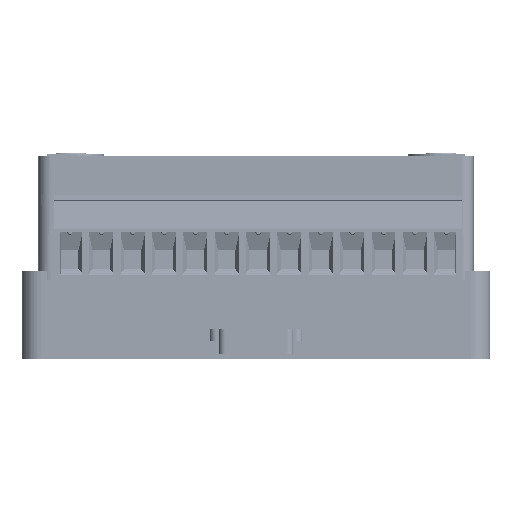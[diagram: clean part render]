
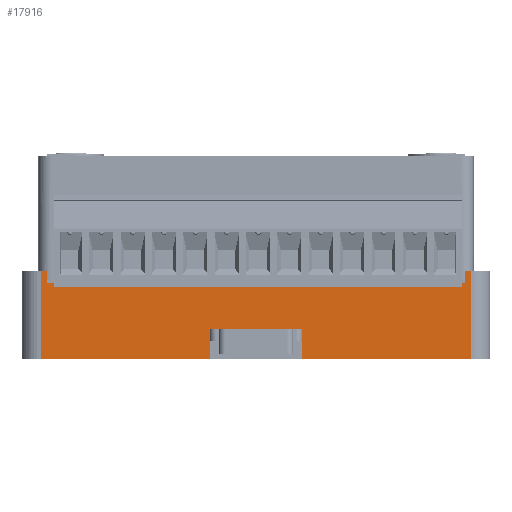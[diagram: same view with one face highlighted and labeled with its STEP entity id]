
A CAD part, front view. The second image highlights one B-rep face of the part: STEP entity #17916.
In plain terms, the highlighted planar face has unit normal (0, -1, 0).
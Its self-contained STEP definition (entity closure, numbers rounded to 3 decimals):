
#17916=ADVANCED_FACE('',(#90174),#90176,.F.);
#90174=FACE_BOUND('',#90175,.T.);
#90175=EDGE_LOOP('',(#143686,#143687,#143688,#143689,#143690,#143691,#143692,#143693,
#143694,#143695,#143696,#143697,#143698,#143699,#143700,#143701));
#90176=PLANE('',#90177);
#90177=AXIS2_PLACEMENT_3D('',#90178,#90179,#90180);
#90178=CARTESIAN_POINT('',(-37.9,-51.95,14.4));
#90179=DIRECTION('',(0.,1.,0.));
#90180=DIRECTION('',(0.,0.,1.));
#143686=ORIENTED_EDGE('',*,*,#199788,.F.);
#143687=ORIENTED_EDGE('',*,*,#199789,.F.);
#143688=ORIENTED_EDGE('',*,*,#199790,.T.);
#143689=ORIENTED_EDGE('',*,*,#199791,.T.);
#143690=ORIENTED_EDGE('',*,*,#199792,.T.);
#143691=ORIENTED_EDGE('',*,*,#199602,.F.);
#143692=ORIENTED_EDGE('',*,*,#199634,.T.);
#143693=ORIENTED_EDGE('',*,*,#199632,.F.);
#143694=ORIENTED_EDGE('',*,*,#199631,.T.);
#143695=ORIENTED_EDGE('',*,*,#199618,.F.);
#143696=ORIENTED_EDGE('',*,*,#199793,.T.);
#143697=ORIENTED_EDGE('',*,*,#199794,.T.);
#143698=ORIENTED_EDGE('',*,*,#199795,.F.);
#143699=ORIENTED_EDGE('',*,*,#199796,.F.);
#143700=ORIENTED_EDGE('',*,*,#199797,.F.);
#143701=ORIENTED_EDGE('',*,*,#199638,.F.);
#199602=EDGE_CURVE('',#226562,#226564,#226565,.T.);
#199618=EDGE_CURVE('',#226591,#226583,#226593,.T.);
#199631=EDGE_CURVE('',#226611,#226583,#226613,.T.);
#199632=EDGE_CURVE('',#226611,#226614,#226615,.T.);
#199634=EDGE_CURVE('',#226562,#226614,#226617,.T.);
#199638=EDGE_CURVE('',#226621,#226623,#226624,.T.);
#199788=EDGE_CURVE('',#226858,#226621,#226859,.T.);
#199789=EDGE_CURVE('',#226860,#226858,#226861,.T.);
#199790=EDGE_CURVE('',#226860,#226862,#226863,.T.);
#199791=EDGE_CURVE('',#226862,#226864,#226865,.T.);
#199792=EDGE_CURVE('',#226864,#226564,#226866,.T.);
#199793=EDGE_CURVE('',#226591,#226867,#226868,.T.);
#199794=EDGE_CURVE('',#226867,#226869,#226870,.T.);
#199795=EDGE_CURVE('',#226871,#226869,#226872,.T.);
#199796=EDGE_CURVE('',#226873,#226871,#226874,.T.);
#199797=EDGE_CURVE('',#226623,#226873,#226875,.T.);
#226562=VERTEX_POINT('',#288930);
#226564=VERTEX_POINT('',#288934);
#226565=LINE('',#288935,#288936);
#226583=VERTEX_POINT('',#288977);
#226591=VERTEX_POINT('',#288994);
#226593=LINE('',#288999,#289000);
#226611=VERTEX_POINT('',#289041);
#226613=LINE('',#289045,#289046);
#226614=VERTEX_POINT('',#289048);
#226615=LINE('',#289049,#289050);
#226617=LINE('',#289055,#289056);
#226621=VERTEX_POINT('',#289065);
#226623=VERTEX_POINT('',#289069);
#226624=LINE('',#289070,#289071);
#226858=VERTEX_POINT('',#289625);
#226859=LINE('',#289626,#289627);
#226860=VERTEX_POINT('',#289629);
#226861=LINE('',#289630,#289631);
#226862=VERTEX_POINT('',#289633);
#226863=LINE('',#289634,#289635);
#226864=VERTEX_POINT('',#289637);
#226865=LINE('',#289638,#289639);
#226866=LINE('',#289641,#289642);
#226867=VERTEX_POINT('',#289644);
#226868=LINE('',#289645,#289646);
#226869=VERTEX_POINT('',#289648);
#226870=LINE('',#289649,#289650);
#226871=VERTEX_POINT('',#289652);
#226872=LINE('',#289653,#289654);
#226873=VERTEX_POINT('',#289656);
#226874=LINE('',#289657,#289658);
#226875=LINE('',#289660,#289661);
#288930=CARTESIAN_POINT('',(33.85,-51.95,14.4));
#288934=CARTESIAN_POINT('',(34.9,-51.95,14.4));
#288935=CARTESIAN_POINT('',(33.85,-51.95,14.4));
#288936=VECTOR('',#288937,1.);
#288937=DIRECTION('',(1.,0.,0.));
#288977=CARTESIAN_POINT('',(-33.85,-51.95,14.4));
#288994=CARTESIAN_POINT('',(-34.9,-51.95,14.4));
#288999=CARTESIAN_POINT('',(-34.9,-51.95,14.4));
#289000=VECTOR('',#289001,1.);
#289001=DIRECTION('',(1.,0.,0.));
#289041=CARTESIAN_POINT('',(-33.85,-51.95,12.4));
#289045=CARTESIAN_POINT('',(-33.85,-51.95,12.4));
#289046=VECTOR('',#289047,1.);
#289047=DIRECTION('',(0.,0.,1.));
#289048=CARTESIAN_POINT('',(33.85,-51.95,12.4));
#289049=CARTESIAN_POINT('',(-33.85,-51.95,12.4));
#289050=VECTOR('',#289051,1.);
#289051=DIRECTION('',(1.,0.,0.));
#289055=CARTESIAN_POINT('',(33.85,-51.95,14.4));
#289056=VECTOR('',#289057,1.);
#289057=DIRECTION('',(0.,0.,-1.));
#289065=CARTESIAN_POINT('',(4.,-51.95,5.));
#289069=CARTESIAN_POINT('',(-4.,-51.95,5.));
#289070=CARTESIAN_POINT('',(4.,-51.95,5.));
#289071=VECTOR('',#289072,1.);
#289072=DIRECTION('',(-1.,0.,0.));
#289625=CARTESIAN_POINT('',(6.936,-51.95,5.));
#289626=CARTESIAN_POINT('',(6.936,-51.95,5.));
#289627=VECTOR('',#289628,1.);
#289628=DIRECTION('',(-1.,0.,0.));
#289629=CARTESIAN_POINT('',(7.5,-51.95,5.));
#289630=CARTESIAN_POINT('',(7.5,-51.95,5.));
#289631=VECTOR('',#289632,1.);
#289632=DIRECTION('',(-1.,0.,0.));
#289633=CARTESIAN_POINT('',(7.5,-51.95,0.));
#289634=CARTESIAN_POINT('',(7.5,-51.95,5.));
#289635=VECTOR('',#289636,1.);
#289636=DIRECTION('',(0.,0.,-1.));
#289637=CARTESIAN_POINT('',(34.9,-51.95,0.));
#289638=CARTESIAN_POINT('',(7.5,-51.95,0.));
#289639=VECTOR('',#289640,1.);
#289640=DIRECTION('',(1.,0.,0.));
#289641=CARTESIAN_POINT('',(34.9,-51.95,0.));
#289642=VECTOR('',#289643,1.);
#289643=DIRECTION('',(0.,0.,1.));
#289644=CARTESIAN_POINT('',(-34.9,-51.95,0.));
#289645=CARTESIAN_POINT('',(-34.9,-51.95,14.4));
#289646=VECTOR('',#289647,1.);
#289647=DIRECTION('',(0.,0.,-1.));
#289648=CARTESIAN_POINT('',(-7.5,-51.95,0.));
#289649=CARTESIAN_POINT('',(-34.9,-51.95,0.));
#289650=VECTOR('',#289651,1.);
#289651=DIRECTION('',(1.,0.,0.));
#289652=CARTESIAN_POINT('',(-7.5,-51.95,5.));
#289653=CARTESIAN_POINT('',(-7.5,-51.95,5.));
#289654=VECTOR('',#289655,1.);
#289655=DIRECTION('',(0.,0.,-1.));
#289656=CARTESIAN_POINT('',(-6.936,-51.95,5.));
#289657=CARTESIAN_POINT('',(-6.936,-51.95,5.));
#289658=VECTOR('',#289659,1.);
#289659=DIRECTION('',(-1.,0.,0.));
#289660=CARTESIAN_POINT('',(-4.,-51.95,5.));
#289661=VECTOR('',#289662,1.);
#289662=DIRECTION('',(-1.,0.,0.));
